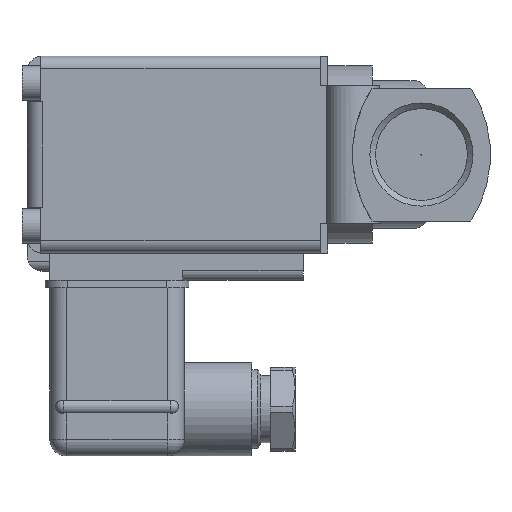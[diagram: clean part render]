
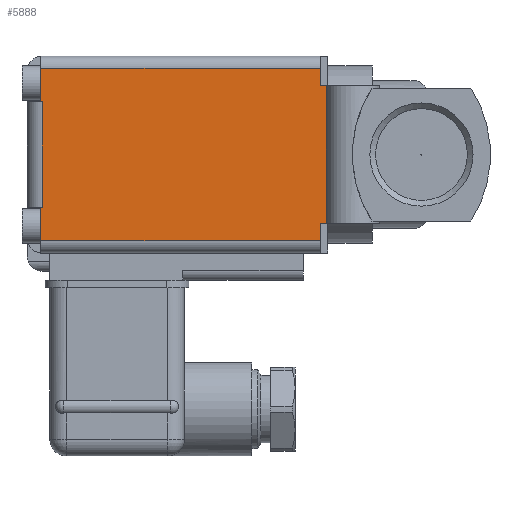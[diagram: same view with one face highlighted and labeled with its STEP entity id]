
A CAD part, left-side view. The second image highlights one B-rep face of the part: STEP entity #5888.
In plain terms, the highlighted planar face has unit normal (-1, 0, 0).
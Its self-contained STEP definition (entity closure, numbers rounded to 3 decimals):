
#492=ORIENTED_EDGE('',*,*,#1723,.T.);
#493=ORIENTED_EDGE('',*,*,#1724,.T.);
#494=ORIENTED_EDGE('',*,*,#1725,.T.);
#495=ORIENTED_EDGE('',*,*,#1726,.T.);
#496=ORIENTED_EDGE('',*,*,#1727,.F.);
#497=ORIENTED_EDGE('',*,*,#1728,.T.);
#498=ORIENTED_EDGE('',*,*,#1729,.F.);
#499=ORIENTED_EDGE('',*,*,#1730,.F.);
#500=ORIENTED_EDGE('',*,*,#1731,.F.);
#501=ORIENTED_EDGE('',*,*,#1732,.F.);
#502=ORIENTED_EDGE('',*,*,#1733,.F.);
#503=ORIENTED_EDGE('',*,*,#1734,.F.);
#1723=EDGE_CURVE('',#2325,#2326,#2703,.T.);
#1724=EDGE_CURVE('',#2326,#2327,#2704,.T.);
#1725=EDGE_CURVE('',#2327,#2328,#2705,.T.);
#1726=EDGE_CURVE('',#2328,#2329,#2706,.T.);
#1727=EDGE_CURVE('',#2330,#2329,#2707,.T.);
#1728=EDGE_CURVE('',#2330,#2331,#2708,.T.);
#1729=EDGE_CURVE('',#2332,#2331,#2709,.T.);
#1730=EDGE_CURVE('',#2333,#2332,#2710,.T.);
#1731=EDGE_CURVE('',#2334,#2333,#2711,.T.);
#1732=EDGE_CURVE('',#2335,#2334,#2712,.T.);
#1733=EDGE_CURVE('',#2336,#2335,#2713,.T.);
#1734=EDGE_CURVE('',#2325,#2336,#2714,.T.);
#2325=VERTEX_POINT('',#8158);
#2326=VERTEX_POINT('',#8159);
#2327=VERTEX_POINT('',#8161);
#2328=VERTEX_POINT('',#8163);
#2329=VERTEX_POINT('',#8165);
#2330=VERTEX_POINT('',#8167);
#2331=VERTEX_POINT('',#8169);
#2332=VERTEX_POINT('',#8171);
#2333=VERTEX_POINT('',#8173);
#2334=VERTEX_POINT('',#8175);
#2335=VERTEX_POINT('',#8177);
#2336=VERTEX_POINT('',#8179);
#2703=LINE('',#8157,#3097);
#2704=LINE('',#8160,#3098);
#2705=LINE('',#8162,#3099);
#2706=LINE('',#8164,#3100);
#2707=LINE('',#8166,#3101);
#2708=LINE('',#8168,#3102);
#2709=LINE('',#8170,#3103);
#2710=LINE('',#8172,#3104);
#2711=LINE('',#8174,#3105);
#2712=LINE('',#8176,#3106);
#2713=LINE('',#8178,#3107);
#2714=LINE('',#8180,#3108);
#3097=VECTOR('',#6738,1000.);
#3098=VECTOR('',#6739,1000.);
#3099=VECTOR('',#6740,1000.);
#3100=VECTOR('',#6741,1000.);
#3101=VECTOR('',#6742,1000.);
#3102=VECTOR('',#6743,1000.);
#3103=VECTOR('',#6744,1000.);
#3104=VECTOR('',#6745,1000.);
#3105=VECTOR('',#6746,1000.);
#3106=VECTOR('',#6747,1000.);
#3107=VECTOR('',#6748,1000.);
#3108=VECTOR('',#6749,1000.);
#3443=EDGE_LOOP('',(#492,#493,#494,#495,#496,#497,#498,#499,#500,#501,#502,
#503));
#3725=FACE_BOUND('',#3443,.T.);
#3989=PLANE('',#6171);
#5888=ADVANCED_FACE('',(#3725),#3989,.T.);
#6171=AXIS2_PLACEMENT_3D('',#8156,#6736,#6737);
#6736=DIRECTION('',(-1.,0.,0.));
#6737=DIRECTION('',(0.,0.,1.));
#6738=DIRECTION('',(0.,1.,0.));
#6739=DIRECTION('',(0.,0.,-1.));
#6740=DIRECTION('',(0.,-1.,0.));
#6741=DIRECTION('',(0.,0.,-1.));
#6742=DIRECTION('',(0.,-1.,0.));
#6743=DIRECTION('',(0.,0.,-1.));
#6744=DIRECTION('',(0.,1.,0.));
#6745=DIRECTION('',(0.,0.,-1.));
#6746=DIRECTION('',(0.,1.,0.));
#6747=DIRECTION('',(0.,0.,-1.));
#6748=DIRECTION('',(0.,-1.,0.));
#6749=DIRECTION('',(0.,0.,-1.));
#8156=CARTESIAN_POINT('',(-20.,-5.,-20.));
#8157=CARTESIAN_POINT('',(-20.,-5.,17.5));
#8158=CARTESIAN_POINT('',(-20.,-3.5,17.5));
#8159=CARTESIAN_POINT('',(-20.,53.3,17.5));
#8160=CARTESIAN_POINT('',(-20.,53.3,-20.));
#8161=CARTESIAN_POINT('',(-20.,53.3,10.7));
#8162=CARTESIAN_POINT('',(-20.,58.,10.7));
#8163=CARTESIAN_POINT('',(-20.,53.,10.7));
#8164=CARTESIAN_POINT('',(-20.,53.,10.7));
#8165=CARTESIAN_POINT('',(-20.,53.,-10.7));
#8166=CARTESIAN_POINT('',(-20.,58.,-10.7));
#8167=CARTESIAN_POINT('',(-20.,53.3,-10.7));
#8168=CARTESIAN_POINT('',(-20.,53.3,-20.));
#8169=CARTESIAN_POINT('',(-20.,53.3,-17.5));
#8170=CARTESIAN_POINT('',(-20.,-5.,-17.5));
#8171=CARTESIAN_POINT('',(-20.,-3.5,-17.5));
#8172=CARTESIAN_POINT('',(-20.,-3.5,-20.));
#8173=CARTESIAN_POINT('',(-20.,-3.5,-14.));
#8174=CARTESIAN_POINT('',(-20.,-5.,-14.));
#8175=CARTESIAN_POINT('',(-20.,-4.708,-14.));
#8176=CARTESIAN_POINT('',(-20.,-4.708,14.));
#8177=CARTESIAN_POINT('',(-20.,-4.708,14.));
#8178=CARTESIAN_POINT('',(-20.,-5.,14.));
#8179=CARTESIAN_POINT('',(-20.,-3.5,14.));
#8180=CARTESIAN_POINT('',(-20.,-3.5,-20.));
